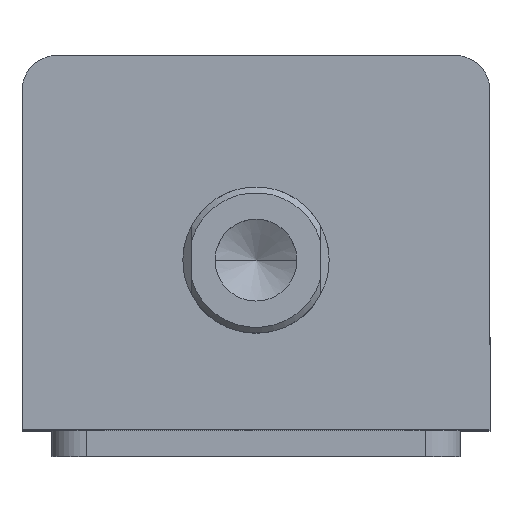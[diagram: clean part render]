
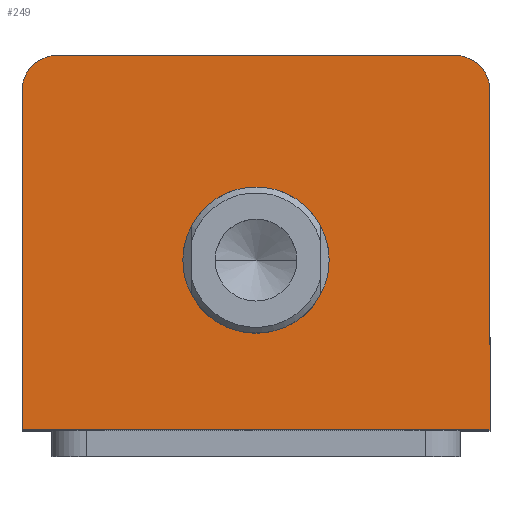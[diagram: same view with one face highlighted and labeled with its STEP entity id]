
A CAD part, top view. The second image highlights one B-rep face of the part: STEP entity #249.
In plain terms, the highlighted planar face has unit normal (0, 0, 1).
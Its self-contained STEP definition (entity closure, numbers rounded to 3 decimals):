
#112 = EDGE_CURVE ( 'NONE', #1259, #1278, #2477, .T. ) ;
#125 = EDGE_CURVE ( 'NONE', #1221, #1267, #2501, .T. ) ;
#148 = EDGE_CURVE ( 'NONE', #1183, #950, #2507, .T. ) ;
#156 = EDGE_CURVE ( 'NONE', #950, #1140, #2516, .T. ) ;
#249 = ADVANCED_FACE ( 'NONE', ( #2661, #2670 ), #3448, .T. ) ;
#287 = EDGE_CURVE ( 'NONE', #1137, #1259, #1625, .T. ) ;
#406 = DIRECTION ( 'NONE',  ( 1., 0., 0. ) ) ;
#410 = DIRECTION ( 'NONE',  ( 0., 0., 1. ) ) ;
#412 = CARTESIAN_POINT ( 'NONE',  ( -34., 26., 145. ) ) ;
#589 = DIRECTION ( 'NONE',  ( -1., 0., 0. ) ) ;
#590 = CARTESIAN_POINT ( 'NONE',  ( -40., 32., 145. ) ) ;
#631 = CARTESIAN_POINT ( 'NONE',  ( -12.5, -3., 145. ) ) ;
#632 = DIRECTION ( 'NONE',  ( 1., 0., 0. ) ) ;
#633 = CARTESIAN_POINT ( 'NONE',  ( -40., -32., 145. ) ) ;
#639 = CARTESIAN_POINT ( 'NONE',  ( -40., -32., 145. ) ) ;
#711 = CARTESIAN_POINT ( 'NONE',  ( -40., 26., 145. ) ) ;
#727 = AXIS2_PLACEMENT_3D ( 'NONE', #2851, #2850, #2849 ) ;
#846 = EDGE_CURVE ( 'NONE', #1267, #1221, #1765, .T. ) ;
#848 = ORIENTED_EDGE ( 'NONE', *, *, #125, .F. ) ;
#849 = ORIENTED_EDGE ( 'NONE', *, *, #846, .F. ) ;
#850 = ORIENTED_EDGE ( 'NONE', *, *, #1589, .T. ) ;
#852 = ORIENTED_EDGE ( 'NONE', *, *, #287, .T. ) ;
#853 = ORIENTED_EDGE ( 'NONE', *, *, #112, .T. ) ;
#855 = ORIENTED_EDGE ( 'NONE', *, *, #1565, .T. ) ;
#856 = ORIENTED_EDGE ( 'NONE', *, *, #148, .T. ) ;
#857 = ORIENTED_EDGE ( 'NONE', *, *, #156, .T. ) ;
#950 = VERTEX_POINT ( 'NONE', #3074 ) ;
#1137 = VERTEX_POINT ( 'NONE', #3049 ) ;
#1140 = VERTEX_POINT ( 'NONE', #3041 ) ;
#1183 = VERTEX_POINT ( 'NONE', #2990 ) ;
#1221 = VERTEX_POINT ( 'NONE', #2940 ) ;
#1259 = VERTEX_POINT ( 'NONE', #711 ) ;
#1267 = VERTEX_POINT ( 'NONE', #631 ) ;
#1278 = VERTEX_POINT ( 'NONE', #639 ) ;
#1324 = AXIS2_PLACEMENT_3D ( 'NONE', #3452, #3446, #3445 ) ;
#1358 = AXIS2_PLACEMENT_3D ( 'NONE', #412, #410, #406 ) ;
#1412 = AXIS2_PLACEMENT_3D ( 'NONE', #3120, #3119, #3118 ) ;
#1565 = EDGE_CURVE ( 'NONE', #1278, #1183, #1807, .T. ) ;
#1589 = EDGE_CURVE ( 'NONE', #1140, #1137, #1835, .T. ) ;
#1625 = CIRCLE ( 'NONE', #1358, 6. ) ;
#1765 = CIRCLE ( 'NONE', #1412, 12.5 ) ;
#1807 = LINE ( 'NONE', #633, #1810 ) ;
#1810 = VECTOR ( 'NONE', #632, 1000. ) ;
#1835 = LINE ( 'NONE', #590, #1838 ) ;
#1838 = VECTOR ( 'NONE', #589, 1000. ) ;
#2325 = EDGE_LOOP ( 'NONE', ( #848, #849 ) ) ;
#2387 = EDGE_LOOP ( 'NONE', ( #850, #852, #853, #855, #856, #857 ) ) ;
#2477 = LINE ( 'NONE', #2761, #2478 ) ;
#2478 = VECTOR ( 'NONE', #2820, 1000. ) ;
#2501 = CIRCLE ( 'NONE', #727, 12.5 ) ;
#2507 = LINE ( 'NONE', #2843, #2510 ) ;
#2510 = VECTOR ( 'NONE', #2842, 1000. ) ;
#2516 = CIRCLE ( 'NONE', #2891, 6. ) ;
#2661 = FACE_BOUND ( 'NONE', #2325, .T. ) ;
#2670 = FACE_OUTER_BOUND ( 'NONE', #2387, .T. ) ;
#2761 = CARTESIAN_POINT ( 'NONE',  ( -40., 32., 145. ) ) ;
#2809 = DIRECTION ( 'NONE',  ( 1., 0., 0. ) ) ;
#2810 = DIRECTION ( 'NONE',  ( 0., 0., 1. ) ) ;
#2811 = CARTESIAN_POINT ( 'NONE',  ( 34., 26., 145. ) ) ;
#2820 = DIRECTION ( 'NONE',  ( 0., -1., 0. ) ) ;
#2842 = DIRECTION ( 'NONE',  ( 0., 1., 0. ) ) ;
#2843 = CARTESIAN_POINT ( 'NONE',  ( 40., 32., 145. ) ) ;
#2849 = DIRECTION ( 'NONE',  ( 1., 0., 0. ) ) ;
#2850 = DIRECTION ( 'NONE',  ( 0., 0., 1. ) ) ;
#2851 = CARTESIAN_POINT ( 'NONE',  ( 0., -3., 145. ) ) ;
#2891 = AXIS2_PLACEMENT_3D ( 'NONE', #2811, #2810, #2809 ) ;
#2940 = CARTESIAN_POINT ( 'NONE',  ( 12.5, -3., 145. ) ) ;
#2990 = CARTESIAN_POINT ( 'NONE',  ( 40., -32., 145. ) ) ;
#3041 = CARTESIAN_POINT ( 'NONE',  ( 34., 32., 145. ) ) ;
#3049 = CARTESIAN_POINT ( 'NONE',  ( -34., 32., 145. ) ) ;
#3074 = CARTESIAN_POINT ( 'NONE',  ( 40., 26., 145. ) ) ;
#3118 = DIRECTION ( 'NONE',  ( 1., 0., 0. ) ) ;
#3119 = DIRECTION ( 'NONE',  ( 0., 0., 1. ) ) ;
#3120 = CARTESIAN_POINT ( 'NONE',  ( 0., -3., 145. ) ) ;
#3445 = DIRECTION ( 'NONE',  ( 1., 0., 0. ) ) ;
#3446 = DIRECTION ( 'NONE',  ( 0., 0., 1. ) ) ;
#3448 = PLANE ( 'NONE',  #1324 ) ;
#3452 = CARTESIAN_POINT ( 'NONE',  ( 0., 0., 145. ) ) ;
